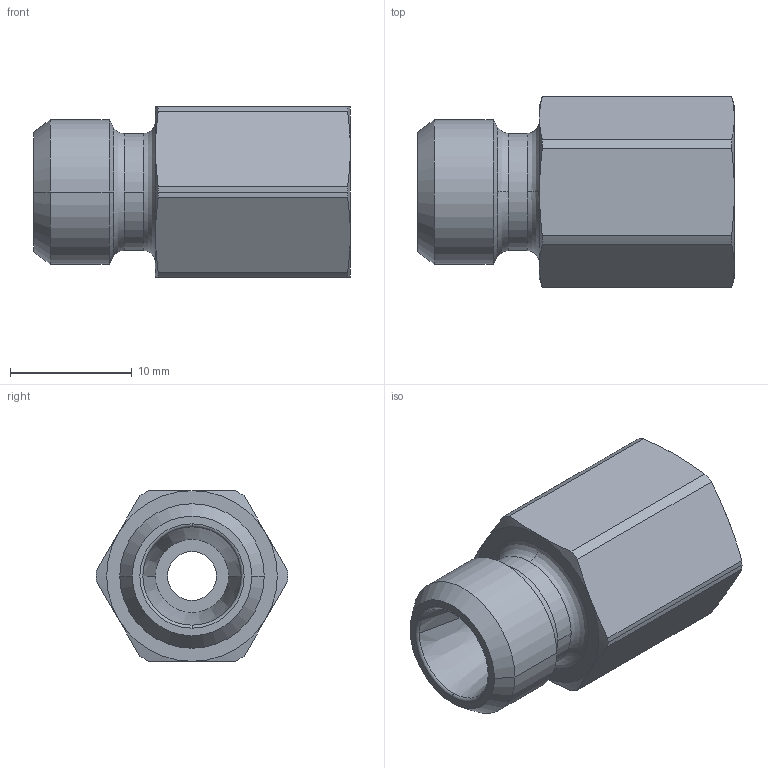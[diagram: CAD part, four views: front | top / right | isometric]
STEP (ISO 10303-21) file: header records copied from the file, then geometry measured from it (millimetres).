
FILE_DESCRIPTION((''),'2;1');
FILE_NAME('100804.stp','2007-10-30T15:22:56',(''),(''),'AutoCAD STEP 2000i','AutoCAD 2000i',', , ');
FILE_SCHEMA(('CONFIG_CONTROL_DESIGN'));
Length unit declared in the file: millimetre
Products named in the file (2): 100804.0; CHIAVE SMUSSATA#0
Assembly tree (1 placements, depth 2):
  100804.0
    CHIAVE SMUSSATA#0
Bounding box: 26 x 15.7 x 14 mm (x, y, z)
Volume: 2507.5 mm3; surface area: 1961.6 mm2
Topology: 1 solids, 1 shells, 56 faces, 134 edges, 82 vertices
Faces by surface type: cone 22, cylinder 18, plane 10, bspline 4, torus 2
Entity records: 1887 total; most frequent: CARTESIAN_POINT 498, DIRECTION 294, ORIENTED_EDGE 268, EDGE_CURVE 134, AXIS2_PLACEMENT_3D 130, VERTEX_POINT 82, CIRCLE 76, EDGE_LOOP 60
